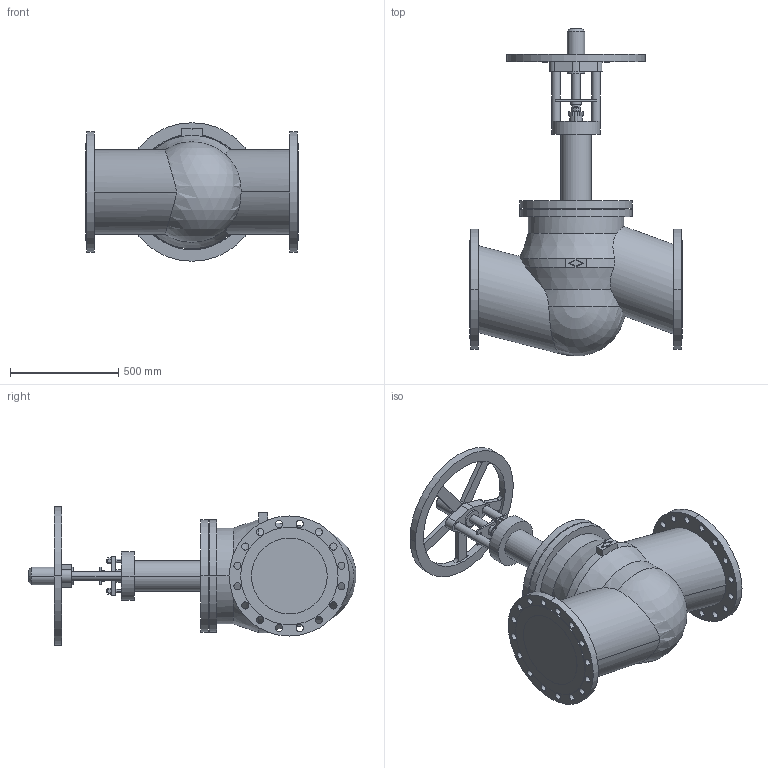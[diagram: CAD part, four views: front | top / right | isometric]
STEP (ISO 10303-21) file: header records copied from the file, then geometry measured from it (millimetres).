
FILE_DESCRIPTION(('Creo Elements/Direct Modeling STEP Export'),'2;1');
FILE_NAME('c000005007.stp','2012-09-19T12:00:04',(''),(''),'Creo Elements/Direct Modeling STEP processor for AP203 (Solid Model)','Creo Elements/Direct Modeling 17.0D 15-Jul-2011 (C) Parametric Technology GmbH','');
FILE_SCHEMA(('CONFIG_CONTROL_DESIGN'));
Length unit declared in the file: millimetre
Products named in the file (1): 1
Bounding box: 980 x 1515.64 x 640 mm (x, y, z)
Volume: 207092239.7 mm3; surface area: 3771790.9 mm2
Topology: 1 solids, 1 shells, 276 faces, 742 edges, 491 vertices
Faces by surface type: cylinder 161, plane 109, cone 5, sphere 1
Entity records: 8723 total; most frequent: CARTESIAN_POINT 1783, ORIENTED_EDGE 1480, DIRECTION 1354, EDGE_CURVE 740, AXIS2_PLACEMENT_3D 492, VERTEX_POINT 491, EDGE_LOOP 383, VECTOR 370
